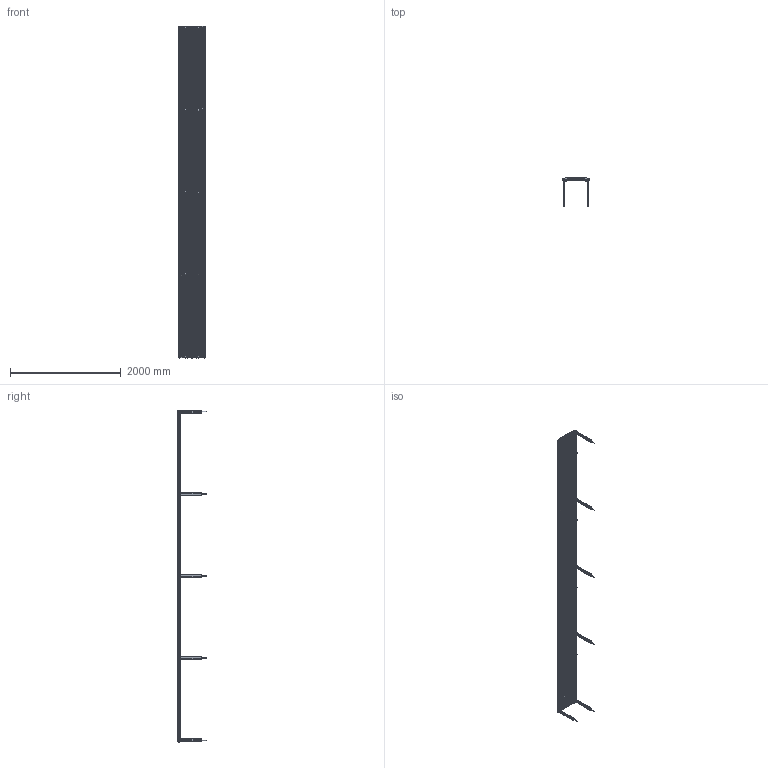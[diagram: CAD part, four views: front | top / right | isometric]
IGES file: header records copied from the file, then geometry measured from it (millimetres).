
Start section: SolidWorks IGES file using analytic representation for surfaces
Global section: file name: C:\SANTACOLE_PDM\Proyectos Catálogo\PROD-P06-035 -- NEOROMÁNTICO LIVIANO\6_Técnico comercial\3D WEB\NEOROMANTICO BANQUETA 100% ALUMINIO 6.5M.IGS; native system: SolidWorks 2013; preprocessor: SolidWorks 2013; author: MarioV; date: 150324.161541; units: millimetre
Bounding box: 491.14 x 524.97 x 6004.33 mm (x, y, z)
Volume: 23547495.8 mm3; surface area: 18804277.3 mm2
Topology: 103 solids, 103 shells, 7755 faces, 21417 edges, 13926 vertices
Faces by surface type: plane 3494, revolution 2669, bspline 1592
